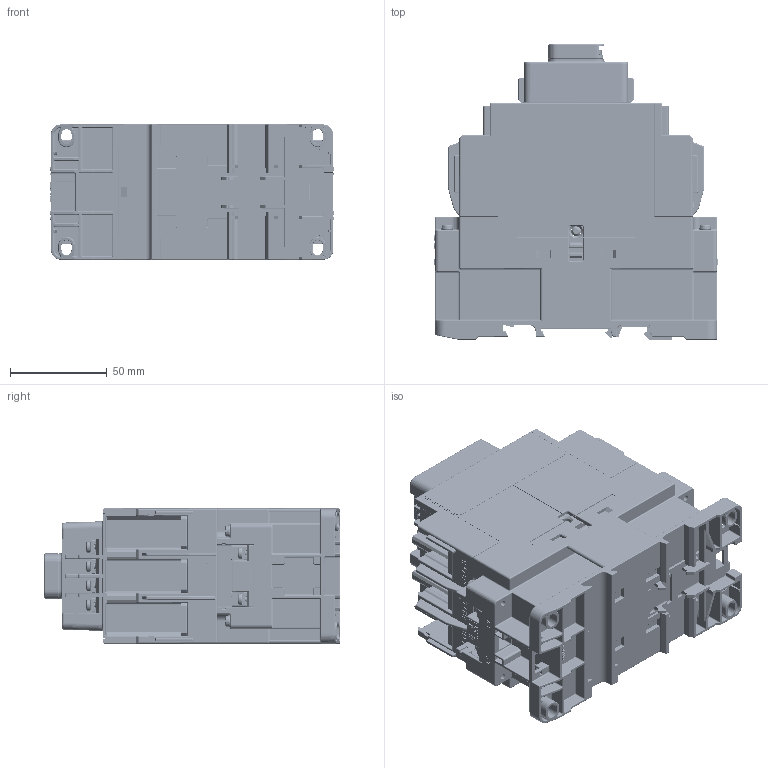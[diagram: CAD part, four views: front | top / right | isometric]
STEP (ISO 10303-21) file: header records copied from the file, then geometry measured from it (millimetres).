
FILE_DESCRIPTION(/* description */ (''),/* implementation_level */ '2;1');
FILE_NAME(/* name */ 'HGC100AF.stp',/* time_stamp */ '2017-09-21T13:56:08+09:00',/* author */ (''),/* organization */ (''),/* preprocessor_version */ 'ST-DEVELOPER v15',/* originating_system */ 'SIEMENS PLM Software NX 9.0',/* authorisation */ '');
FILE_SCHEMA (('CONFIG_CONTROL_DESIGN'));
Products named in the file (1): HGC100AF
Bounding box: 146.7 x 152.95 x 70.3 mm (x, y, z)
Volume: 1336818.8 mm3; surface area: 410771.6 mm2
Topology: 64 solids, 89 shells, 19917 faces, 51047 edges, 31107 vertices
Faces by surface type: plane 9040, cylinder 7127, torus 1333, bspline 1196, sphere 718, extrusion 389, cone 114
Full cylindrical faces by diameter (mm): 1.5 x2, 1.8 x2, 2.8 x4, 3 x4, 3.5 x4, 3.8 x4, 4 x7, 4.5 x10, 5 x2, 5.2 x2, 8.4 x6, 8.5 x6
Entity records: 668286 total; most frequent: CARTESIAN_POINT 194082, ORIENTED_EDGE 100330, DIRECTION 98163, EDGE_CURVE 50165, AXIS2_PLACEMENT_3D 34681, VERTEX_POINT 31074, VECTOR 28801, LINE 28412
